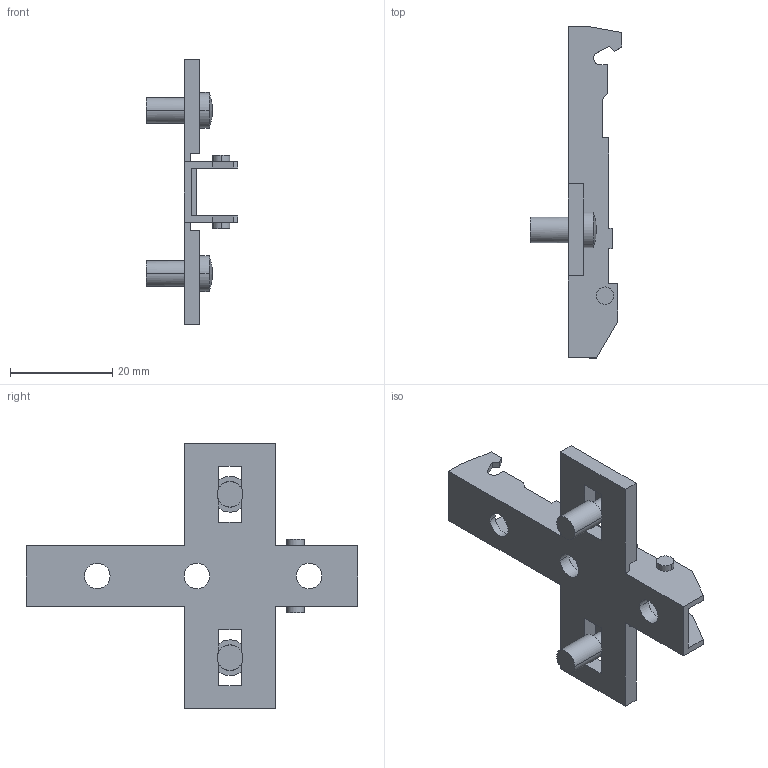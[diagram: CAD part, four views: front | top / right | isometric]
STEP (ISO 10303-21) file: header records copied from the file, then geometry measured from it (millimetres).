
FILE_DESCRIPTION (( 'STEP AP214' ), '1' );
FILE_NAME ('Eco Kreuzmontageplatte LR37_32_Dübel 5mm_kurz_H00.step', '2010-11-18T10:07:12', ( 'grass' ), ( '' ), 'SwSTEP 2.0', 'SolidWorks 2010', '' );
FILE_SCHEMA (( 'AUTOMOTIVE_DESIGN' ));
Length unit declared in the file: millimetre
Products named in the file (1): Eco Kreuzmontageplatte LR37_32_Dübel 5mm_kurz_H00
Bounding box: 18 x 65 x 52 mm (x, y, z)
Volume: 4581.7 mm3; surface area: 5803.3 mm2
Topology: 1 solids, 1 shells, 104 faces, 310 edges, 202 vertices
Faces by surface type: plane 76, cylinder 24, sphere 4
Entity records: 3552 total; most frequent: ORIENTED_EDGE 620, CARTESIAN_POINT 617, DIRECTION 592, EDGE_CURVE 310, VECTOR 238, LINE 238, VERTEX_POINT 202, AXIS2_PLACEMENT_3D 177
